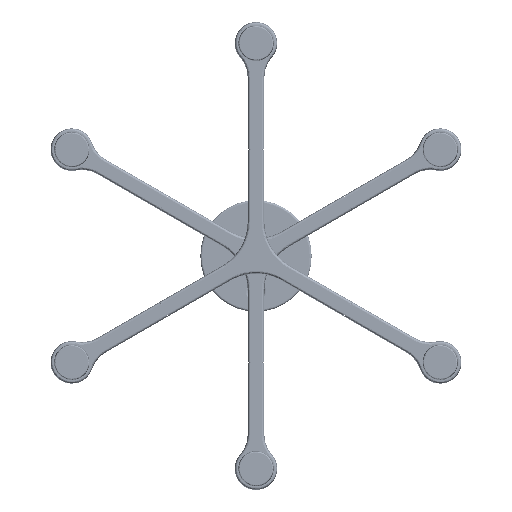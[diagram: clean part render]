
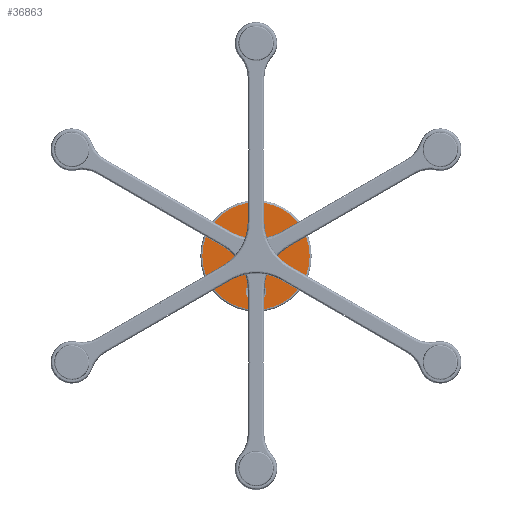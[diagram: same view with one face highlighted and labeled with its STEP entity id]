
A CAD part, front view. The second image highlights one B-rep face of the part: STEP entity #36863.
In plain terms, the highlighted planar face has unit normal (0, -1, 0).
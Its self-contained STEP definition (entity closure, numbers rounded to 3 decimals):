
#2566 = CARTESIAN_POINT ( 'NONE',  ( 0., 0., 0. ) ) ;
#2567 = DIRECTION ( 'NONE',  ( 0., 1., 0. ) ) ;
#2568 = DIRECTION ( 'NONE',  ( -1., 0., 0. ) ) ;
#2569 = CARTESIAN_POINT ( 'NONE',  ( 0., 0., 0. ) ) ;
#2570 = DIRECTION ( 'NONE',  ( 0., 1., 0. ) ) ;
#2571 = DIRECTION ( 'NONE',  ( -1., 0., 0. ) ) ;
#2572 = CARTESIAN_POINT ( 'NONE',  ( 0., 0., -35. ) ) ;
#2573 = DIRECTION ( 'NONE',  ( 0., 1., 0. ) ) ;
#2574 = DIRECTION ( 'NONE',  ( -1., 0., 0. ) ) ;
#2605 = CARTESIAN_POINT ( 'NONE',  ( 0., 0., 0. ) ) ;
#2606 = DIRECTION ( 'NONE',  ( 0., 1., 0. ) ) ;
#2607 = DIRECTION ( 'NONE',  ( -1., 0., 0. ) ) ;
#2716 = CARTESIAN_POINT ( 'NONE',  ( 0., 0., -35. ) ) ;
#2717 = DIRECTION ( 'NONE',  ( 0., 1., 0. ) ) ;
#2718 = DIRECTION ( 'NONE',  ( -1., 0., 0. ) ) ;
#2728 = CARTESIAN_POINT ( 'NONE',  ( 0., 0., 0. ) ) ;
#2729 = DIRECTION ( 'NONE',  ( 0., 1., 0. ) ) ;
#2730 = DIRECTION ( 'NONE',  ( -1., 0., 0. ) ) ;
#6120 = PLANE ( 'NONE',  #28616 ) ;
#6121 = CARTESIAN_POINT ( 'NONE',  ( 0., 0., 0. ) ) ;
#6122 = DIRECTION ( 'NONE',  ( 0., 1., 0. ) ) ;
#6123 = DIRECTION ( 'NONE',  ( -1., 0., 0. ) ) ;
#28606 = FACE_BOUND ( 'NONE', #70057, .T. ) ;
#28610 = FACE_BOUND ( 'NONE', #69979, .T. ) ;
#28614 = FACE_OUTER_BOUND ( 'NONE', #70004, .T. ) ;
#28616 = AXIS2_PLACEMENT_3D ( 'NONE', #6121, #6122, #6123 ) ;
#34884 = ORIENTED_EDGE ( 'NONE', *, *, #65273, .T. ) ;
#34886 = ORIENTED_EDGE ( 'NONE', *, *, #65221, .T. ) ;
#34888 = ORIENTED_EDGE ( 'NONE', *, *, #65220, .T. ) ;
#34890 = ORIENTED_EDGE ( 'NONE', *, *, #65279, .T. ) ;
#34892 = ORIENTED_EDGE ( 'NONE', *, *, #65219, .F. ) ;
#34893 = ORIENTED_EDGE ( 'NONE', *, *, #65232, .F. ) ;
#36863 = ADVANCED_FACE ( 'NONE', ( #28606, #28610, #28614 ), #6120, .F. ) ;
#40144 = VERTEX_POINT ( 'NONE', #91220 ) ;
#40172 = VERTEX_POINT ( 'NONE', #91251 ) ;
#40191 = VERTEX_POINT ( 'NONE', #91270 ) ;
#40249 = VERTEX_POINT ( 'NONE', #91328 ) ;
#56472 = VERTEX_POINT ( 'NONE', #80220 ) ;
#56617 = VERTEX_POINT ( 'NONE', #80365 ) ;
#65219 = EDGE_CURVE ( 'NONE', #56472, #56617, #74259, .T. ) ;
#65220 = EDGE_CURVE ( 'NONE', #40191, #40172, #74260, .T. ) ;
#65221 = EDGE_CURVE ( 'NONE', #40249, #40144, #74261, .T. ) ;
#65232 = EDGE_CURVE ( 'NONE', #56617, #56472, #74270, .T. ) ;
#65273 = EDGE_CURVE ( 'NONE', #40144, #40249, #74293, .T. ) ;
#65279 = EDGE_CURVE ( 'NONE', #40172, #40191, #74297, .T. ) ;
#69979 = EDGE_LOOP ( 'NONE', ( #34890, #34888 ) ) ;
#70004 = EDGE_LOOP ( 'NONE', ( #34893, #34892 ) ) ;
#70057 = EDGE_LOOP ( 'NONE', ( #34884, #34886 ) ) ;
#74259 = CIRCLE ( 'NONE', #87587, 53. ) ;
#74260 = CIRCLE ( 'NONE', #87588, 10. ) ;
#74261 = CIRCLE ( 'NONE', #87589, 10. ) ;
#74270 = CIRCLE ( 'NONE', #87575, 53. ) ;
#74293 = CIRCLE ( 'NONE', #87639, 10. ) ;
#74297 = CIRCLE ( 'NONE', #87642, 10. ) ;
#80220 = CARTESIAN_POINT ( 'NONE',  ( 53., 0., 0. ) ) ;
#80365 = CARTESIAN_POINT ( 'NONE',  ( -53., 0., 0. ) ) ;
#87575 = AXIS2_PLACEMENT_3D ( 'NONE', #2605, #2606, #2607 ) ;
#87587 = AXIS2_PLACEMENT_3D ( 'NONE', #2566, #2567, #2568 ) ;
#87588 = AXIS2_PLACEMENT_3D ( 'NONE', #2569, #2570, #2571 ) ;
#87589 = AXIS2_PLACEMENT_3D ( 'NONE', #2572, #2573, #2574 ) ;
#87639 = AXIS2_PLACEMENT_3D ( 'NONE', #2716, #2717, #2718 ) ;
#87642 = AXIS2_PLACEMENT_3D ( 'NONE', #2728, #2729, #2730 ) ;
#91220 = CARTESIAN_POINT ( 'NONE',  ( -10., 0., -35. ) ) ;
#91251 = CARTESIAN_POINT ( 'NONE',  ( -10., 0., 0. ) ) ;
#91270 = CARTESIAN_POINT ( 'NONE',  ( 10., 0., 0. ) ) ;
#91328 = CARTESIAN_POINT ( 'NONE',  ( 10., 0., -35. ) ) ;
